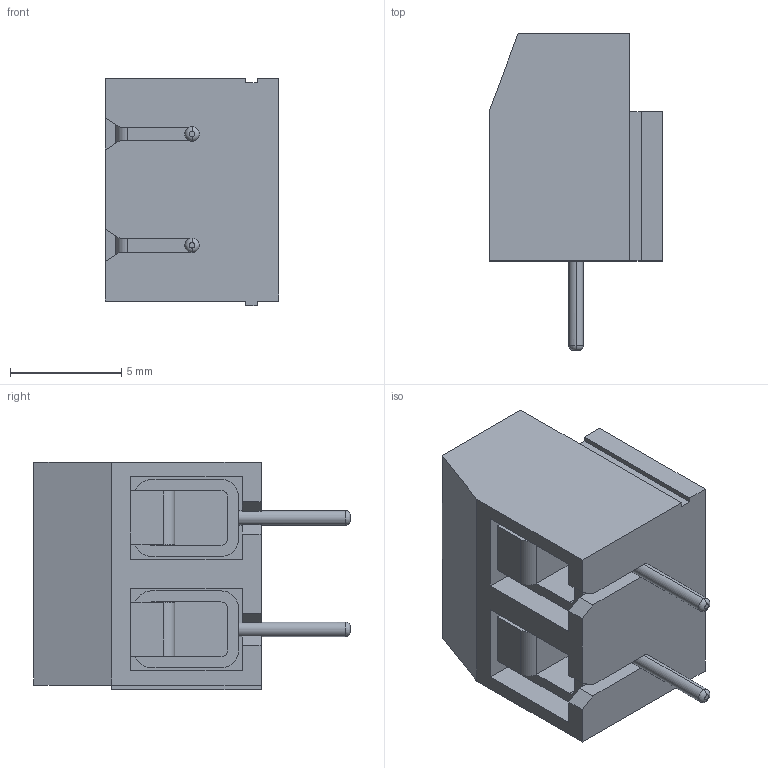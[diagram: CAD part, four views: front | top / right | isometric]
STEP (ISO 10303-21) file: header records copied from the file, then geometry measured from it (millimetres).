
FILE_DESCRIPTION (( 'STEP AP214' ), '1' );
FILE_NAME ('0579F47A-7168-4DB8-B17C-329835C8E2C9.STEP', '2026-08-17T10:27:53', ( '' ), ( '' ), 'SwSTEP 2.0', 'SolidWorks 2022', '' );
FILE_SCHEMA (( 'AUTOMOTIVE_DESIGN' ));
Length unit declared in the file: millimetre
Products named in the file (1): 0579F47A-7168-4DB8-B17C-329835C8E2C9
Bounding box: 7.8 x 14.2 x 10.21 mm (x, y, z)
Volume: 632.4 mm3; surface area: 853 mm2
Topology: 1 solids, 1 shells, 138 faces, 375 edges, 243 vertices
Faces by surface type: plane 92, cylinder 38, torus 8
Entity records: 5915 total; most frequent: CARTESIAN_POINT 797, DIRECTION 753, ORIENTED_EDGE 750, EDGE_CURVE 375, VECTOR 259, LINE 259, AXIS2_PLACEMENT_3D 247, VERTEX_POINT 243
